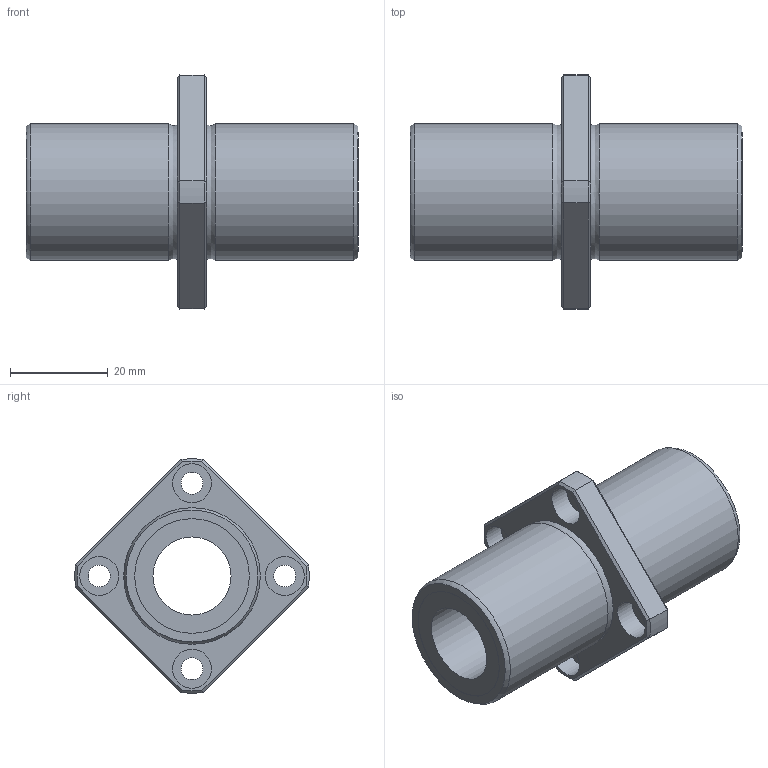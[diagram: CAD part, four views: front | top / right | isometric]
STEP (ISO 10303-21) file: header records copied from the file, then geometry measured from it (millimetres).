
FILE_DESCRIPTION((''),'2;1');
FILE_NAME('D:\製品 (図面)\カタログ用3D\リニアベアリング関連\STEP形式\LFDKC\LFDKC16.stp','2010-06-03T09:37:52',('Tsuchiya'),(''),'Autodesk Inventor 10','Autodesk Inventor 10','');
FILE_SCHEMA(('AUTOMOTIVE_DESIGN { 1 0 10303 214 1 1 1 1 }'));
Length unit declared in the file: millimetre
Products named in the file (1): LFDKC16
Bounding box: 68 x 47.98 x 47.98 mm (x, y, z)
Volume: 31419.9 mm3; surface area: 12322.6 mm2
Topology: 1 solids, 1 shells, 51 faces, 103 edges, 62 vertices
Faces by surface type: plane 22, cylinder 17, cone 8, torus 2, bspline 2
Full cylindrical faces by diameter (mm): 4.5 x4, 8 x4, 16 x1, 23.5 x2, 28 x2
Entity records: 1413 total; most frequent: CARTESIAN_POINT 372, DIRECTION 216, ORIENTED_EDGE 172, AXIS2_PLACEMENT_3D 96, EDGE_CURVE 86, EDGE_LOOP 86, VERTEX_POINT 62, FACE_OUTER_BOUND 51
